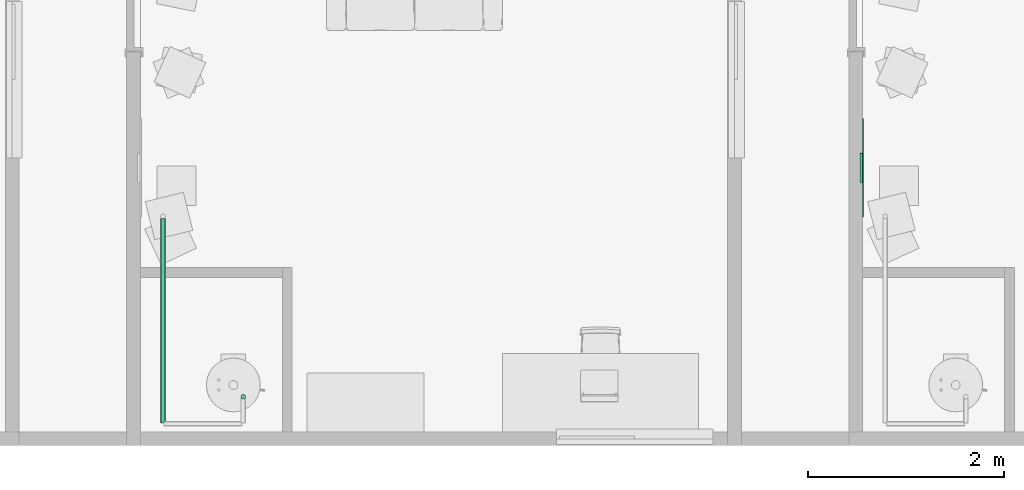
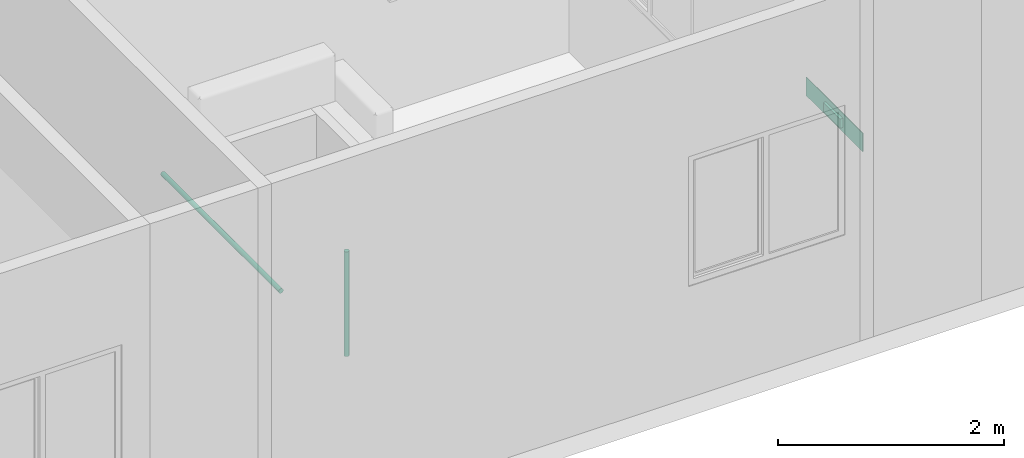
# One storey, part 17 of 72: 2 pipe segments, 1 air terminal.
"""IFC4 building model written with IfcOpenShell, lengths in centimetres."""

from ifc_helpers import new_model, entity, si_unit, converted_unit, derived_unit, direction, frame, origin, place, context, subcontext, project, spatial, arc, indexed_curve, outline, extrude, source, transform, mapped, material, constituent, constituent_set, type_object, type_shapes, element, save


model = new_model("IFC4")

# Units and contexts
model_context = context("Model", 3, precision=0.001, world=origin(), true_north=direction((6.123233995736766e-17, 1.0)))
body_context = subcontext(model_context, "Body", "Model", "MODEL_VIEW")
ifc_project = project(units=[si_unit("LENGTHUNIT", "METRE", prefix="CENTI"), si_unit("AREAUNIT", "SQUARE_METRE"), si_unit("VOLUMEUNIT", "CUBIC_METRE"), derived_unit("THERMALTRANSMITTANCEUNIT", [(si_unit("MASSUNIT", "GRAM", prefix="KILO"), 1), (si_unit("THERMODYNAMICTEMPERATUREUNIT", "KELVIN"), -1), (si_unit("TIMEUNIT", "SECOND"), -3)]), converted_unit("PLANEANGLEUNIT", "DEGREE", entity("IfcPlaneAngleMeasure", 0.017453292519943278), si_unit("PLANEANGLEUNIT", "RADIAN"), dimensions=[0, 0, 0, 0, 0, 0, 0]), derived_unit("MASSDENSITYUNIT", [(si_unit("MASSUNIT", "GRAM", prefix="KILO"), 1), (si_unit("LENGTHUNIT", "METRE"), -3)]), derived_unit("VAPORPERMEABILITYUNIT", [(si_unit("LENGTHUNIT", "METRE"), -1), (si_unit("TIMEUNIT", "SECOND"), 1)]), derived_unit("USERDEFINED", [(si_unit("MASSUNIT", "GRAM", prefix="KILO"), 1), (si_unit("TIMEUNIT", "SECOND"), -3), (si_unit("LENGTHUNIT", "METRE"), 3), (si_unit("ELECTRICCURRENTUNIT", "AMPERE"), -2)]), derived_unit("SPECIFICHEATCAPACITYUNIT", [(si_unit("THERMODYNAMICTEMPERATUREUNIT", "KELVIN"), -1), (si_unit("LENGTHUNIT", "METRE"), 2), (si_unit("TIMEUNIT", "SECOND"), -2)]), derived_unit("THERMALCONDUCTANCEUNIT", [(si_unit("MASSUNIT", "GRAM", prefix="KILO"), 1), (si_unit("THERMODYNAMICTEMPERATUREUNIT", "KELVIN"), -1), (si_unit("TIMEUNIT", "SECOND"), -3), (si_unit("LENGTHUNIT", "METRE"), 1)]), si_unit("PRESSUREUNIT", "PASCAL"), derived_unit("MODULUSOFELASTICITYUNIT", [(si_unit("MASSUNIT", "GRAM", prefix="KILO"), 1), (si_unit("LENGTHUNIT", "METRE"), -1), (si_unit("TIMEUNIT", "SECOND"), -2)]), derived_unit("THERMALEXPANSIONCOEFFICIENTUNIT", [(si_unit("THERMODYNAMICTEMPERATUREUNIT", "KELVIN"), -1)])], contexts=[model_context])

# Site, building, storey, space
site_placement = place(None, origin())
site = spatial("IfcSite", under=ifc_project, at=site_placement, Name="Default", CompositionType="ELEMENT")
building_placement = place(site_placement, origin())
building = spatial("IfcBuilding", under=site, at=building_placement, Name="IDS Escape Game Building", CompositionType="ELEMENT")
storey_placement = place(building_placement, frame((0.0, 0.0, 800.0)))
storey = spatial("IfcBuildingStorey", under=building, at=storey_placement, Name="02_Second Floor", CompositionType="ELEMENT", Elevation=800.0)
space_placement = place(storey_placement, origin())
space = spatial("IfcSpace", under=storey, at=space_placement, Name="73", CompositionType="ELEMENT", PredefinedType="NOTDEFINED")

# Air terminal
ifc_material_1 = material(Name="TB_LVC_referentievlak_00_gen_BERSnl", Category="BE Default")
ifc_constituent_1 = constituent(ifc_material_1, Name="TB_LVC_referentievlak_00_gen_BERSnl", Category="BE Default", fraction=0.00014157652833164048)
ifc_material_2 = material(Name="ARC_FME.h2_staal_00_gen_BERSnl", Category="h - metaal")
ifc_constituent_2 = constituent(ifc_material_2, Name="ARC_FME.h2_staal_00_gen_BERSnl", Category="h - metaal", fraction=0.9998584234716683)
ifc_constituent_set_1 = constituent_set(constituents=[ifc_constituent_1, ifc_constituent_2])
ifc_constituent_3 = constituent(ifc_material_1, Name="BE Referentievlak", Category="BE Default", fraction=0.00014157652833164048)
ifc_constituent_4 = constituent(ifc_material_2, Name="Terminals", Category="h - metaal", fraction=0.9998584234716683)
ifc_constituent_set_2 = constituent_set(constituents=[ifc_constituent_3, ifc_constituent_4])
air_terminal_type = type_object("IfcAirTerminalType", Name="TB_57_AIR_FB_aanzuigrooster - 1 rechthoekige aansluiting - calculated flow_gen_BERSnl:Air Terminal - Exhaust", PredefinedType="GRILLE", material=ifc_constituent_set_2)
shared_shape = source(origin(), body_context, "Body", "SweptSolid", [
    extrude(outline(indexed_curve([(-0.5, -2.0290176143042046e-15), (6.8507733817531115e-16, -0.5000000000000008), (0.5, 2.0290176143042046e-15), (-5.361679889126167e-16, 0.49999999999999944)], segments=[arc(1, 2, 3), arc(3, 4, 1)], self_intersect=False)), frame((0.0, 0.0, 0.0), z_axis=(1.7453292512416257e-05, 0.0, 1.0), x_axis=(0.0, 1.0, 0.0)), (0.0, 0.0, 1.0), 0.09999999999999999),
    extrude(outline(indexed_curve([(-14.900000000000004, -4.9), (14.900000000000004, -4.9), (14.900000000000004, 4.9), (-14.900000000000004, 4.9), (-14.900000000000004, -4.9)], self_intersect=False)), frame((-4.886921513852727e-05, 0.0, -2.7999999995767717)), (0.0, 0.0, 1.0), 2.7999999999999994),
    extrude(outline(indexed_curve([(-50.0, -10.0), (50.0, -10.0), (50.0, 10.0), (-50.0, 10.0), (-50.0, -10.0)], self_intersect=False)), frame((0.0, 0.0, 0.0), z_axis=(0.0, 0.0, 1.0), x_axis=(-1.0, 0.0, 0.0)), (0.0, 0.0, 1.0), 0.6999999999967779),
])
type_shapes(air_terminal_type, [shared_shape])
air_terminal_placement = place(space_placement, frame((1483.0, 283.0, 24.0), z_axis=(1.0, 0.0, 0.0), x_axis=(0.0, 1.0, 0.0)))
element("IfcAirTerminal", 1, at=air_terminal_placement, inside=space, type_object=air_terminal_type, material=ifc_constituent_set_1, Name="TB_57_AIR_FB_aanzuigrooster - 1 rechthoekige aansluiting - calculated flow_gen_BERSnl:Air Terminal - Exhaust", ObjectType="TB_57_AIR_FB_aanzuigrooster - 1 rechthoekige aansluiting - calculated flow_gen_BERSnl:Air Terminal - Exhaust", PredefinedType="GRILLE", context=body_context, shape_type="MappedRepresentation", body=[
    mapped(shared_shape, transform((0.0, 0.0, 0.0), scale=1.0)),
])

# Pipe segments
pipe_segment_type = type_object("IfcPipeSegmentType", Name="Pipe Types:Piping Aluminum", PredefinedType="NOTDEFINED")
pipe_segment_1_placement = place(storey_placement, origin())
element("IfcPipeSegment", 2, at=pipe_segment_1_placement, inside=storey, type_object=pipe_segment_type, Name="Pipe Types:Piping Aluminum", ObjectType="Pipe Types:Piping Aluminum", PredefinedType="NOTDEFINED", context=body_context, shape_type="SweptSolid", body=[
    extrude(outline(indexed_curve([(2.412999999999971, 0.0), (1.7062486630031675, 1.7062486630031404), (0.0, 2.412999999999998), (-1.7062486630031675, 1.7062486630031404), (-2.412999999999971, 6.767919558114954e-15), (-1.7062486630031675, -1.7062486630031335), (0.0, -2.412999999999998), (1.7062486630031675, -1.706248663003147)], segments=[arc(1, 2, 3), arc(3, 4, 5), arc(5, 6, 7), arc(7, 8, 1)], self_intersect=False)), frame((850.1500000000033, 48.900000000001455, 128.0), z_axis=(0.0, 0.0, 1.0), x_axis=(-1.0, 0.0, 0.0)), (0.0, 0.0, 1.0), 112.90000000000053),
])
pipe_segment_2_placement = place(storey_placement, origin())
element("IfcPipeSegment", 3, at=pipe_segment_2_placement, inside=storey, type_object=pipe_segment_type, Name="Pipe Types:Piping Aluminum", ObjectType="Pipe Types:Piping Aluminum", PredefinedType="NOTDEFINED", context=body_context, shape_type="SweptSolid", body=[
    extrude(outline(indexed_curve([(2.412999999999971, 0.0), (1.7062486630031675, 1.7062486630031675), (0.0, 2.412999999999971), (-1.7062486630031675, 1.7062486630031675), (-2.412999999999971, 0.0), (-1.7062486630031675, -1.7062486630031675), (0.0, -2.412999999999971), (1.7062486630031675, -1.7062486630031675)], segments=[arc(1, 2, 3), arc(3, 4, 5), arc(5, 6, 7), arc(7, 8, 1)], self_intersect=False)), frame((768.0467168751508, 22.364827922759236, 242.0), z_axis=(0.0, 1.0, 0.0), x_axis=(1.0, 0.0, 0.0)), (0.0, 0.0, 1.0), 208.80000000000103),
])

save(model, "model.ifc")
